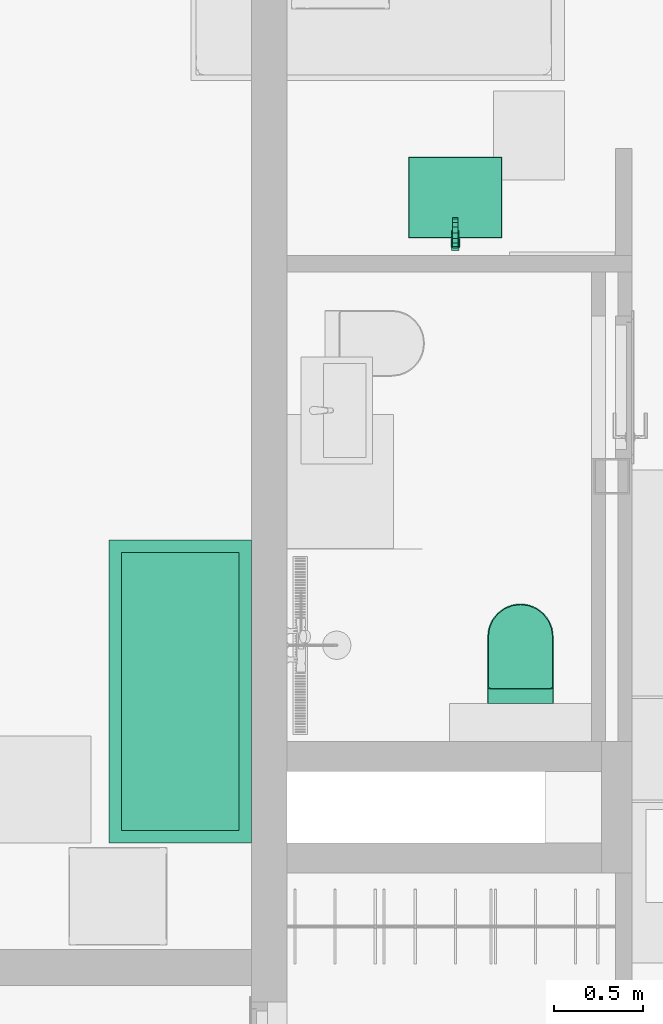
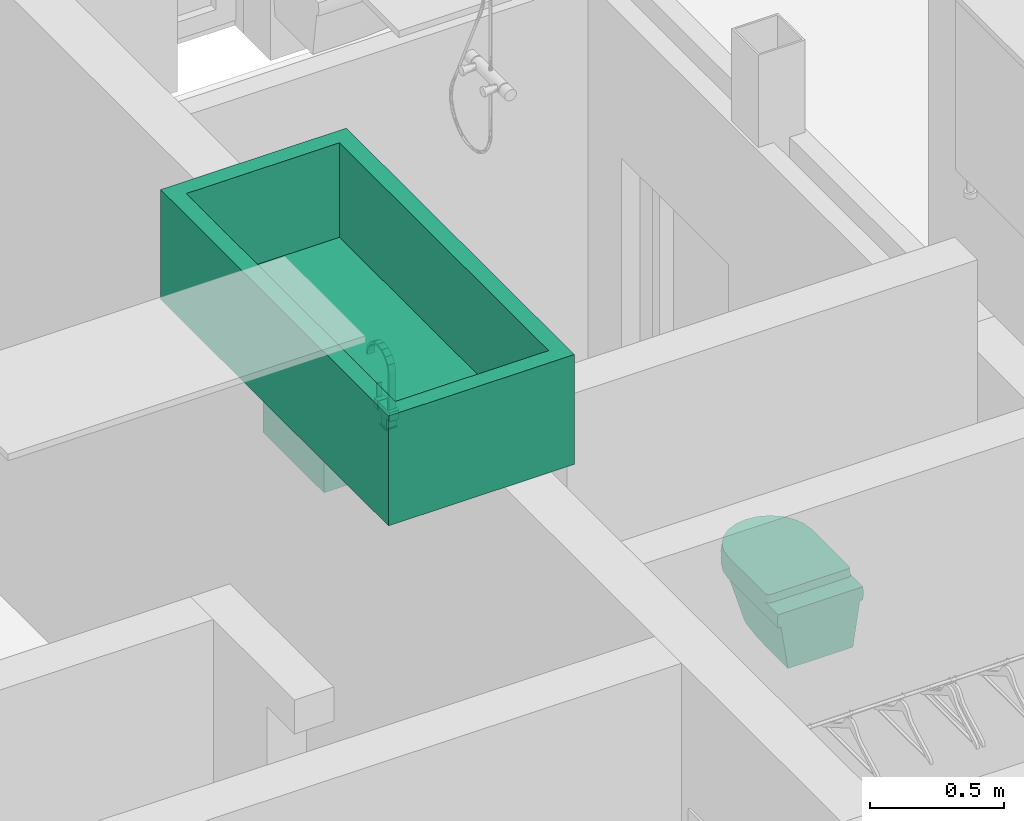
# One storey, part 21 of 68: 4 flow terminals.
"""IFC2X3 building model written with IfcOpenShell, lengths in millimetres."""

from ifc_helpers import new_model, entity, si_unit, converted_unit, direction, frame, origin, place, context, subcontext, project, spatial, faceted_brep, source, transform, mapped, material, type_object, type_shapes, element, save


model = new_model("IFC2X3")

# Units and contexts
model_context = context("Model", 3, precision=0.01, world=origin(), true_north=direction((6.123233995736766e-17, 1.0)))
plan_context = context("Plan", 3, precision=0.01, world=origin(), true_north=direction((6.123233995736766e-17, 1.0)))
body_context = subcontext(model_context, "Body", "Model", "MODEL_VIEW")
ifc_project = project(units=[si_unit("LENGTHUNIT", "METRE", prefix="MILLI"), converted_unit("PLANEANGLEUNIT", "DEGREE", entity("IfcPlaneAngleMeasure", 0.017453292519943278), si_unit("PLANEANGLEUNIT", "RADIAN"), dimensions=[0, 0, 0, 0, 0, 0, 0]), si_unit("AREAUNIT", "SQUARE_METRE")], contexts=[model_context, plan_context])

# Site, building, storey, space
site_placement = place(None, origin())
site = spatial("IfcSite", under=ifc_project, at=site_placement, Name="Default", CompositionType="ELEMENT")
building_placement = place(site_placement, origin())
building = spatial("IfcBuilding", under=site, at=building_placement, CompositionType="ELEMENT")
storey_placement = place(building_placement, frame((0.0, 0.0, 6295.0)))
storey = spatial("IfcBuildingStorey", under=building, at=storey_placement, Name="3K", CompositionType="ELEMENT", Elevation=6294.999999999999)
space_1_placement = place(storey_placement, origin())
space_1 = spatial("IfcSpace", under=storey, at=space_1_placement, Name="3-7.4", CompositionType="ELEMENT", InteriorOrExteriorSpace="INTERNAL")

# Flow terminal
ifc_material = material(Name="<Unnamed>")
distribution_element_type_1 = type_object("IfcDistributionElementType", Name="HR_Plumbing-fixtures_Toilet_Generic_v3:Default", material=ifc_material)
shared_shape_1 = source(origin(), body_context, "Body", "Brep", [
    faceted_brep([(185.0, 375.0, -3940.0), (185.0, 100.0, -3940.0), (184.31851652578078, 94.82361909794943, -3940.0), (182.32050807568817, 90.0, -3940.0), (179.14213562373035, 85.85786437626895, -3940.0), (175.0, 82.67949192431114, -3940.0), (170.17638090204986, 80.68148347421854, -3940.0), (165.0, 80.0, -3940.0), (-165.0, 80.0, -3940.0), (-170.17638090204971, 80.68148347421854, -3940.0), (-175.0, 82.67949192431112, -3940.0), (-179.14213562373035, 85.85786437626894, -3940.0), (-182.32050807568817, 90.0, -3940.0), (-184.31851652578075, 94.82361909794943, -3940.0), (-185.0, 100.0, -3940.0), (-185.0, 375.0, -3940.0), (-178.6962778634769, 422.8815233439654, -3940.0), (-160.21469970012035, 467.49999999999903, -3940.0), (-130.81475451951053, 505.81475451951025, -3940.0), (-92.4999999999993, 535.21469970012, -3940.0), (-47.8815233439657, 553.6962778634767, -3940.0), (0.0, 560.0, -3940.0), (47.88152334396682, 553.6962778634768, -3940.0), (92.50000000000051, 535.2146997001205, -3940.0), (130.81475451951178, 505.8147545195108, -3940.0), (160.2146997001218, 467.4999999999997, -3940.0), (178.69627786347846, 422.8815233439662, -3940.0), (165.0, 85.0, -3905.0), (168.88228567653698, 85.51111260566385, -3905.0), (172.4999999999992, 87.00961894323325, -3905.0), (175.60660171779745, 89.39339828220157, -3905.0), (177.99038105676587, 92.49999999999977, -3905.0), (179.48888739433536, 96.11771432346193, -3905.0), (180.0, 100.0, -3905.0), (180.0, 375.0, -3905.0), (173.86664873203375, 421.5874281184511, -3905.0), (155.88457268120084, 465.0, -3905.0), (127.27922061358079, 502.27922061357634, -3905.0), (90.0, 530.884572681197, -3905.0), (46.58742811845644, 548.8666487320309, -3905.0), (0.0, 555.0, -3905.0), (-46.58742811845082, 548.8666487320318, -3905.0), (-90.0, 530.8845726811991, -3905.0), (-127.27922061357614, 502.2792206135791, -3905.0), (-155.88457268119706, 465.0, -3905.0), (-173.8666487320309, 421.58742811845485, -3905.0), (-180.0, 375.0, -3905.0), (-180.0, 100.0, -3905.0), (-179.4888873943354, 96.11771432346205, -3905.0), (-177.99038105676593, 92.49999999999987, -3905.0), (-175.6066017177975, 89.39339828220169, -3905.0), (-172.49999999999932, 87.00961894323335, -3905.0), (-168.88228567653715, 85.51111260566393, -3905.0), (-165.0, 85.0, -3905.0)], [[[0, 1, 2, 3, 4, 5, 6, 7, 8, 9, 10, 11, 12, 13, 14, 15, 16, 17, 18, 19, 20, 21, 22, 23, 24, 25, 26]], [[27, 28, 29, 30, 31, 32, 33, 34, 35, 36, 37, 38, 39, 40, 41, 42, 43, 44, 45, 46, 47, 48, 49, 50, 51, 52, 53]], [[13, 48, 47, 14]], [[49, 12, 11, 50]], [[48, 13, 12, 49]], [[52, 51, 10, 9]], [[53, 52, 9, 8]], [[10, 51, 50, 11]], [[7, 27, 53, 8]], [[6, 28, 27, 7]], [[29, 5, 4, 30]], [[28, 6, 5, 29]], [[32, 31, 3, 2]], [[33, 32, 2, 1]], [[3, 31, 30, 4]], [[0, 34, 33, 1]], [[34, 0, 26, 35]], [[35, 26, 25, 36]], [[38, 37, 24, 23]], [[24, 37, 36, 25]], [[39, 38, 23, 22]], [[39, 22, 21, 40]], [[20, 41, 40, 21]], [[45, 44, 17, 16]], [[43, 18, 17, 44]], [[45, 16, 15, 46]], [[19, 42, 41, 20]], [[19, 18, 43, 42]], [[47, 46, 15, 14]]]),
    faceted_brep([(158.04963619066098, 466.24999999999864, -4000.0), (176.28146329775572, 422.2344757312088, -4000.0), (182.5000000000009, 375.0, -4000.0), (182.5000000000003, 0.0, -4000.0), (-182.49999999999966, 0.0, -4000.0), (-182.49999999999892, 375.0, -4000.0), (-176.2814632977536, 422.23447573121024, -4000.0), (-158.04963619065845, 466.25, -4000.0), (-129.04698756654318, 504.0469875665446, -4000.0), (-91.2499999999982, 533.0496361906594, -4000.0), (-47.23447573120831, 551.281463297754, -4000.0), (0.0, 557.4999999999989, -4000.0), (47.23447573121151, 551.2814632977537, -4000.0), (91.25000000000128, 533.0496361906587, -4000.0), (129.04698756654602, 504.0469875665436, -4000.0), (-176.28146329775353, 422.23447573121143, -3940.0), (-182.49999999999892, 375.0, -3940.0), (-182.49999999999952, 0.0, -3940.0), (182.50000000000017, 0.0, -3940.0), (182.50000000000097, 375.0, -3940.0), (176.2814632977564, 422.23447573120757, -3940.0), (158.04963619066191, 466.24999999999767, -3940.0), (129.04698756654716, 504.04698756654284, -3940.0), (91.25000000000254, 533.0496361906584, -3940.0), (47.23447573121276, 551.2814632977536, -3940.0), (0.0, 557.4999999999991, -3940.0), (-47.23447573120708, 551.2814632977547, -3940.0), (-91.24999999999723, 533.0496361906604, -3940.0), (-129.04698756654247, 504.0469875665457, -3940.0), (-158.0496361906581, 466.25000000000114, -3940.0), (184.3739186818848, 0.0, -3985.051993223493), (185.0, 0.0, -3970.0), (184.37391868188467, 0.0, -3954.9480067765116), (-184.37391868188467, 0.0, -3954.9480067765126), (-185.0, 0.0, -3970.0), (-184.37391868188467, 0.0, -3985.051993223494), (185.0, 375.0, -3970.0), (184.37391868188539, 375.0, -3954.9480067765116), (184.37391868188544, 375.0, -3985.051993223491), (179.22193525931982, 420.2391964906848, -3962.467496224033), (146.12425609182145, 487.1250848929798, -3987.162723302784), (112.36452390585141, 521.4362980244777, -3982.347722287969), (-24.092382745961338, 557.9998161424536, -3957.652277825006), (-70.79643453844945, 545.9177137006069, -3969.999999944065), (165.88140661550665, 456.6493815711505, -3963.605381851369), (170.61476036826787, 445.67094705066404, -3980.89777177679), (146.7703673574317, 487.6208651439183, -3969.999999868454), (112.4934291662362, 521.6042920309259, -3961.29138681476), (70.79643457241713, 545.9177136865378, -3969.9999999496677), (-170.6147602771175, 445.67094700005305, -3980.8977734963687), (-146.12425609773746, 487.12508488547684, -3987.1627233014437), (70.4847752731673, 545.1653000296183, -3987.16272333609), (24.092382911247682, 557.9998161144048, -3982.3477222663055), (-146.77036734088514, 487.62086516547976, -3969.999999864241), (-165.88140640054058, 456.6493822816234, -3963.605385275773), (24.120021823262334, 558.2097557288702, -3961.2913867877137), (-24.120022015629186, 558.20975569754, -3978.7086133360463), (180.8695297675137, 411.23491834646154, -3983.9362692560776), (-112.36452329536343, 521.4362985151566, -3957.652277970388), (-112.4934298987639, 521.6042914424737, -3978.708613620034), (-70.48477528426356, 545.1653000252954, -3987.1627233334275), (-184.3739188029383, 375.0, -3954.948008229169), (-179.2219343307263, 420.239200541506, -3962.4674984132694), (-185.0, 375.0, -3970.0000029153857), (-184.3739185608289, 375.0, -3985.0519946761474), (-181.40133300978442, 410.0856400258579, -3979.2616608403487)], [[[0, 1, 2, 3, 4, 5, 6, 7, 8, 9, 10, 11, 12, 13, 14]], [[15, 16, 17, 18, 19, 20, 21, 22, 23, 24, 25, 26, 27, 28, 29]], [[4, 3, 30, 31, 32, 18, 17, 33, 34, 35]], [[32, 31, 36, 37]], [[32, 37, 19, 18]], [[30, 3, 2, 38]], [[30, 38, 36, 31]], [[37, 39, 20]], [[40, 14, 41]], [[20, 19, 37]], [[26, 42, 43]], [[44, 45, 46]], [[47, 41, 48]], [[48, 24, 23]], [[7, 49, 50]], [[47, 22, 46]], [[51, 12, 52]], [[21, 46, 22]], [[53, 49, 54]], [[55, 52, 56]], [[48, 52, 55]], [[36, 57, 39]], [[28, 58, 53]], [[11, 10, 56]], [[57, 38, 2]], [[37, 36, 39]], [[59, 58, 43]], [[7, 6, 49]], [[14, 13, 41]], [[12, 51, 13]], [[45, 57, 1]], [[14, 40, 0]], [[45, 1, 0]], [[47, 46, 41]], [[39, 57, 45]], [[24, 48, 55]], [[56, 42, 55]], [[26, 43, 27]], [[39, 45, 44]], [[58, 28, 27]], [[9, 59, 60]], [[27, 43, 58]], [[28, 53, 29]], [[61, 16, 15]], [[11, 56, 52]], [[61, 62, 63]], [[47, 48, 23]], [[41, 51, 48]], [[15, 54, 62]], [[42, 25, 55]], [[62, 61, 15]], [[64, 63, 65]], [[56, 60, 43]], [[55, 25, 24]], [[50, 53, 59]], [[60, 10, 9]], [[47, 23, 22]], [[62, 49, 65]], [[7, 50, 8]], [[49, 62, 54]], [[64, 6, 5]], [[42, 26, 25]], [[58, 59, 53]], [[49, 6, 65]], [[44, 21, 20]], [[11, 52, 12]], [[42, 56, 43]], [[46, 45, 40]], [[59, 9, 8]], [[39, 44, 20]], [[44, 46, 21]], [[54, 29, 53]], [[29, 54, 15]], [[13, 51, 41]], [[48, 51, 52]], [[0, 40, 45]], [[46, 40, 41]], [[10, 60, 56]], [[43, 60, 59]], [[8, 50, 59]], [[53, 50, 49]], [[1, 57, 2]], [[36, 38, 57]], [[62, 65, 63]], [[64, 65, 6]], [[16, 61, 33]], [[16, 33, 17]], [[33, 61, 34]], [[61, 63, 34]], [[64, 5, 4]], [[64, 35, 63]], [[35, 64, 4]], [[63, 35, 34]]]),
    faceted_brep([(85.0, 522.224318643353, -4000.0), (43.99923766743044, 539.2073904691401, -4000.0), (0.0, 545.0, -4000.0), (-43.99923766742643, 539.2073904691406, -4000.0), (-85.0, 522.2243186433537, -4000.0), (-120.20815280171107, 495.2081528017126, -4000.0), (-147.22431864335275, 460.0, -4000.0), (-164.20739046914, 418.9992376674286, -4000.0), (-170.0, 375.0, -4000.0), (-170.0, 0.0, -4000.0), (170.0, 0.0, -4000.0), (170.0, 375.0, -4000.0), (164.2073904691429, 418.99923766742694, -4000.0), (147.224318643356, 460.0, -4000.0), (120.20815280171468, 495.20815280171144, -4000.0), (140.0, 0.0, -4200.0), (-140.0, 0.0, -4200.0), (-140.0, 150.0, -4200.0), (-138.62980634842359, 195.25787346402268, -4200.0), (-137.25961308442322, 240.51573412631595, -4200.0), (-133.15405183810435, 285.6078202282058, -4200.0), (-129.04849039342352, 330.69990850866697, -4200.0), (-121.54313718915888, 361.12229181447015, -4200.0), (-106.97640292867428, 388.86507440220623, -4200.0), (-86.1945818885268, 412.3164634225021, -4200.0), (-60.40505081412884, 430.11398627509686, -4200.0), (-31.106123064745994, 441.2236471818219, -4200.0), (0.0, 445.0, -4200.0), (31.106123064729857, 441.2236471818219, -4200.0), (60.40505081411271, 430.1139862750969, -4200.0), (86.19458188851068, 412.3164634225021, -4200.0), (106.97640292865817, 388.86507440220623, -4200.0), (121.54313718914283, 361.12229181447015, -4200.0), (129.04849039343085, 330.69990850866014, -4200.0), (133.15405231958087, 285.60781494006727, -4200.0), (137.25961308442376, 240.51573412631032, -4200.0), (138.629806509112, 195.25786815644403, -4200.0), (140.0, 150.0, -4200.0), (150.60660238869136, 229.54951791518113, -4129.289317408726), (160.30330119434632, 302.2747589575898, -4064.6446587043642), (155.52145288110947, 359.3375502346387, -4070.710688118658), (143.52703751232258, 346.36235827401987, -4129.289311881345), (155.38792293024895, 359.1931016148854, -4071.362825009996), (136.07910358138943, 407.7451780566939, -4100.000018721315), (144.4628484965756, 378.65444268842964, -4105.413468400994), (88.6637225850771, 465.93257853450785, -4100.000001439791), (116.08235687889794, 439.8543237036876, -4100.000003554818), (-146.76963007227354, 381.58655237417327, -4094.5865394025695), (-136.0791098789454, 407.7451788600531, -4100.000000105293), (-143.66056550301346, 346.5068047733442, -4128.637184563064), (-156.76351819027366, 360.6811785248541, -4064.644658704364), (55.573859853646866, 484.30716171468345, -4100.000000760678), (18.928354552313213, 493.79904274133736, -4099.999999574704), (-55.573860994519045, 484.3071615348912, -4100.00000022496), (-18.928355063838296, 493.79904230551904, -4100.000000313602), (-143.52703638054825, 346.36235704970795, -4129.289317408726), (-88.66372427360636, 465.9325779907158, -4100.000000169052), (-116.08235986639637, 439.8543221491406, -4100.000000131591), (-159.3933967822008, 295.45047586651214, -4070.7106881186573), (-150.6066032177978, 229.54952413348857, -4129.2893118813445)], [[[0, 1, 2, 3, 4, 5, 6, 7, 8, 9, 10, 11, 12, 13, 14]], [[15, 16, 17, 18, 19, 20, 21, 22, 23, 24, 25, 26, 27, 28, 29, 30, 31, 32, 33, 34, 35, 36, 37]], [[10, 15, 37, 38, 39, 11]], [[36, 35, 39, 38, 37]], [[39, 40, 11]], [[35, 40, 39]], [[34, 33, 41, 42, 40, 35]], [[13, 12, 43]], [[32, 44, 33]], [[32, 31, 43]], [[44, 12, 42]], [[45, 30, 29]], [[45, 46, 30]], [[22, 47, 48]], [[30, 46, 31]], [[47, 49, 50, 8]], [[28, 51, 29]], [[46, 43, 31]], [[43, 44, 32]], [[12, 11, 40, 42]], [[51, 45, 29]], [[14, 45, 0]], [[13, 43, 46]], [[28, 27, 52]], [[14, 46, 45]], [[45, 51, 0]], [[0, 51, 1]], [[1, 51, 52]], [[52, 51, 28]], [[52, 2, 1]], [[13, 46, 14]], [[53, 26, 25]], [[2, 54, 3]], [[22, 21, 55, 49]], [[24, 56, 25]], [[48, 23, 22]], [[5, 57, 6]], [[48, 57, 23]], [[24, 23, 57]], [[47, 7, 48]], [[8, 7, 47]], [[26, 54, 27]], [[3, 54, 53]], [[56, 53, 25]], [[2, 52, 54]], [[57, 56, 24]], [[4, 53, 56]], [[22, 49, 47]], [[5, 56, 57]], [[57, 48, 6]], [[4, 56, 5]], [[53, 54, 26]], [[3, 53, 4]], [[6, 48, 7]], [[12, 44, 43]], [[44, 42, 41, 33]], [[54, 52, 27]], [[20, 19, 50, 49, 55, 21]], [[50, 58, 8]], [[19, 58, 50]], [[18, 17, 59, 58, 19]], [[9, 8, 58, 59, 17, 16]], [[9, 16, 15, 10]]]),
])
type_shapes(distribution_element_type_1, [shared_shape_1])
flow_terminal_1_placement = place(space_1_placement, frame((11462.0, 9423.0, 5485.0)))
element("IfcFlowTerminal", 1, at=flow_terminal_1_placement, inside=space_1, type_object=distribution_element_type_1, material=ifc_material, Name="HR_Plumbing-fixtures_Toilet_Generic_v3:Default", ObjectType="HR_Plumbing-fixtures_Toilet_Generic_v3:Default", context=body_context, shape_type="MappedRepresentation", body=[
    mapped(shared_shape_1, transform((0.0, 0.0, 0.0), scale=1.0)),
])

# Space
space_2_placement = place(storey_placement, origin())
space_2 = spatial("IfcSpace", under=storey, at=space_2_placement, Name="3-6.2", CompositionType="ELEMENT", InteriorOrExteriorSpace="INTERNAL")

# Flow terminal
distribution_element_type_2 = type_object("IfcDistributionElementType", Name="HR_Plumbing-fixtures_Bath_Generic_v1:Default", material=ifc_material)
shared_shape_2 = source(origin(), body_context, "Body", "Brep", [
    faceted_brep([(1700.0, 800.0, 500.0), (0.0, 800.0, 500.0), (0.0, 0.0, 500.0), (1700.0, 0.0, 500.0), (70.0, 730.0, 500.0), (1630.0, 730.0, 500.0), (1630.0, 70.0, 500.0), (70.0, 70.0, 500.0), (1700.0, 800.0, 0.0), (1700.0, 0.0, 0.0), (0.0, 0.0, 0.0), (0.0, 800.0, 0.0), (1630.0, 730.0, 70.0), (70.0, 730.0, 70.0), (70.0, 70.0, 70.0), (1630.0, 70.0, 70.0)], [[[0, 1, 2, 3], [4, 5, 6, 7]], [[8, 9, 10, 11]], [[1, 0, 8, 11]], [[2, 1, 11, 10]], [[3, 2, 10, 9]], [[0, 3, 9, 8]], [[12, 13, 14, 15]], [[13, 12, 5, 4]], [[14, 13, 4, 7]], [[15, 14, 7, 6]], [[12, 15, 6, 5]]]),
])
type_shapes(distribution_element_type_2, [shared_shape_2])
flow_terminal_2_placement = place(space_2_placement, frame((9950.0, 8640.0, 3170.000076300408), z_axis=(0.0, 0.0, 1.0), x_axis=(0.0, 1.0, 0.0)))
element("IfcFlowTerminal", 2, at=flow_terminal_2_placement, inside=space_2, type_object=distribution_element_type_2, material=ifc_material, Name="HR_Plumbing-fixtures_Bath_Generic_v1:Default", ObjectType="HR_Plumbing-fixtures_Bath_Generic_v1:Default", context=body_context, shape_type="MappedRepresentation", body=[
    mapped(shared_shape_2, transform((0.0, 0.0, 0.0), scale=1.0)),
])

# Space
space_3_placement = place(storey_placement, origin())
space_3 = spatial("IfcSpace", under=storey, at=space_3_placement, Name="3-7.2", CompositionType="ELEMENT", InteriorOrExteriorSpace="INTERNAL")

# Flow terminals
distribution_element_type_3 = type_object("IfcDistributionElementType", Name="HR_Plumbing-fixtures_Sink_Generic_Kitchen_v1:Default", material=ifc_material)
shared_shape_3 = source(origin(), body_context, "Body", "Brep", [
    faceted_brep([(260.0, -50.0, -3825.0), (260.0, -500.0, -3825.0), (-260.0, -500.0, -3825.0), (-260.0, -50.0, -3825.0), (262.0, -48.0, -3825.0), (-262.0, -48.0, -3825.0), (-262.0, -502.0, -3825.0), (262.0, -502.0, -3825.0), (262.0, -48.0, -4025.0), (262.0, -502.0, -4025.0), (-262.0, -502.0, -4025.0), (-262.0, -48.0, -4025.0), (260.0, -50.0, -4023.0), (260.0, -500.0, -4023.0), (-260.0, -500.0, -4023.0), (-260.0, -50.0, -4023.0)], [[[0, 1, 2, 3], [4, 5, 6, 7]], [[8, 9, 10, 11]], [[1, 0, 12, 13]], [[2, 1, 13, 14]], [[3, 2, 14, 15]], [[0, 3, 15, 12]], [[5, 4, 8, 11]], [[6, 5, 11, 10]], [[7, 6, 10, 9]], [[4, 7, 9, 8]], [[13, 12, 15, 14]]], outer=[[False, True], [True], [True], [True], [True], [True], [True], [True], [True], [True], [True]]),
])
type_shapes(distribution_element_type_3, [shared_shape_3])
flow_terminal_3_placement = place(space_3_placement, frame((11096.0, 12540.0, 4695.0)))
element("IfcFlowTerminal", 3, at=flow_terminal_3_placement, inside=space_3, type_object=distribution_element_type_3, material=ifc_material, Name="HR_Plumbing-fixtures_Sink_Generic_Kitchen_v1:Default", ObjectType="HR_Plumbing-fixtures_Sink_Generic_Kitchen_v1:Default", context=body_context, shape_type="MappedRepresentation", body=[
    mapped(shared_shape_3, transform((0.0, 0.0, 0.0), scale=1.0)),
])
distribution_element_type_4 = type_object("IfcDistributionElementType", Name="HR_Plumbing-fixtures_Faucet_Generic_v1:Default", material=ifc_material)
shared_shape_4 = source(origin(), body_context, "Body", "Brep", [
    faceted_brep([(-21.0, 45.0, 93.0), (21.0, 45.0, 93.0), (21.0, 71.0, 93.0), (11.500000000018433, 71.0, 93.0), (11.50000000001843, 68.0, 93.0), (-11.49999999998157, 68.0, 93.0), (-11.499999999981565, 71.0, 93.0), (-21.0, 71.0, 93.0), (-21.0, 45.0, 52.0), (-21.0, 71.0, 52.0), (-11.499999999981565, 71.0, 52.0), (-11.49999999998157, 68.0, 52.0), (11.50000000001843, 68.0, 52.0), (11.500000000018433, 71.0, 52.0), (21.0, 71.0, 52.0), (21.0, 45.0, 52.0), (-11.499999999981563, 74.0, 155.0), (-11.499999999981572, 68.0, 155.0), (11.500000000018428, 68.0, 155.0), (11.500000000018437, 74.0, 155.0), (-11.499999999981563, 74.0, 47.0), (11.500000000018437, 74.0, 47.0), (11.500000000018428, 68.0, 47.0), (-11.499999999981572, 68.0, 47.0)], [[[0, 1, 2, 3, 4, 5, 6, 7]], [[8, 9, 10, 11, 12, 13, 14, 15]], [[1, 0, 8, 15]], [[2, 1, 15, 14]], [[2, 14, 13, 3]], [[0, 7, 9, 8]], [[16, 17, 18, 19]], [[20, 21, 22, 23]], [[17, 16, 20, 23, 11, 10, 6, 5]], [[18, 17, 5, 4]], [[19, 18, 4, 3, 13, 12, 22, 21]], [[16, 19, 21, 20]], [[23, 22, 12, 11]], [[9, 7, 6, 10]]]),
    faceted_brep([(15.0, -28.2999999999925, 93.0), (-15.0, -28.299999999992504, 93.0), (-15.0, -18.299999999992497, 93.0), (15.0, -18.299999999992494, 93.0), (15.0, -28.299999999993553, 262.91444034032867), (-15.0, -28.29999999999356, 262.9144403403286), (-15.0, -18.29999999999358, 262.49427421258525), (15.0, -18.299999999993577, 262.49427421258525), (15.0, -24.100059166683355, 278.21407775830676), (15.0, -19.900118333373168, 293.51371517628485), (-15.0, -19.900118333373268, 293.5137151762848), (-15.0, -24.100059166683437, 278.2140777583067), (-15.0, -0.9291565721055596, 318.9494428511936), (-15.0, -10.414637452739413, 306.2315790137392), (15.0, -10.414637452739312, 306.23157901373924), (15.0, -0.9291565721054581, 318.9494428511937), (15.0, 142.33160759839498, 262.51576689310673), (-15.0, 142.33160759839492, 262.51576689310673), (-15.0, 138.20320612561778, 277.83486312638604), (-15.0, 134.07480465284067, 293.15395935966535), (15.0, 134.07480465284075, 293.15395935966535), (15.0, 138.20320612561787, 277.83486312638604), (-15.0, 26.005040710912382, 335.7250992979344), (-15.0, 12.537942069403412, 327.337271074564), (15.0, 12.537942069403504, 327.337271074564), (15.0, 26.005040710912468, 335.7250992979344), (-15.0, 57.19996222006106, 341.5346177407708), (-15.0, 41.60250146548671, 338.6298585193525), (15.0, 41.60250146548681, 338.62985851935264), (15.0, 57.19996222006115, 341.5346177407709), (-15.0, 88.36739590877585, 335.5793923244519), (-15.0, 72.78367906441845, 338.55700503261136), (15.0, 72.78367906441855, 338.55700503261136), (15.0, 88.36739590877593, 335.5793923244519), (-15.0, 124.64885649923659, 305.9160089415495), (-15.0, 115.22290834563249, 318.67805852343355), (15.0, 115.22290834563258, 318.67805852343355), (15.0, 124.64885649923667, 305.9160089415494), (-15.0, 101.79515212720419, 327.1287254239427), (15.0, 101.79515212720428, 327.1287254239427), (-15.0, 142.3316075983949, 249.0), (-15.0, 132.33160759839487, 249.0), (-15.0, 132.3316075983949, 262.11973222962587), (-15.0, 128.64003790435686, 275.58767371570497), (-15.0, 124.94846821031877, 289.05561520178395), (-15.0, 116.61798076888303, 300.2634746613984), (-15.0, 108.28749332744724, 311.4713341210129), (-15.0, 96.45555148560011, 318.88876541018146), (-15.0, 84.623609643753, 326.30619669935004), (-15.0, 70.90577314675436, 328.9204071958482), (-15.0, 57.187936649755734, 331.53461769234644), (-15.0, 43.457269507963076, 328.98865726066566), (-15.0, 29.726602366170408, 326.4426968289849), (-15.0, 17.85792051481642, 319.08419658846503), (-15.0, 5.989238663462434, 311.72569634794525), (-15.0, -2.3968815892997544, 300.55940234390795), (-15.0, -10.783001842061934, 289.3931083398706), (-15.0, -14.541500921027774, 275.9436912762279), (15.0, -10.783001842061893, 289.3931083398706), (15.0, -14.541500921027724, 275.9436912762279), (15.0, 5.989238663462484, 311.7256963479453), (15.0, -2.396881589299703, 300.55940234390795), (15.0, 116.61798076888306, 300.2634746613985), (15.0, 108.28749332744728, 311.47133412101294), (15.0, 124.94846821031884, 289.05561520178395), (15.0, 29.726602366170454, 326.4426968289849), (15.0, 17.857920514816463, 319.08419658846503), (15.0, 57.187936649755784, 331.53461769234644), (15.0, 43.45726950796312, 328.98865726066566), (15.0, 84.62360964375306, 326.30619669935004), (15.0, 70.90577314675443, 328.9204071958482), (15.0, 127.94606568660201, 278.11949025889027), (15.0, 132.33160759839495, 262.11973222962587), (15.0, 96.45555148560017, 318.88876541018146), (15.0, 132.33160759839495, 249.0), (15.0, 142.33160759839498, 249.0)], [[[0, 1, 2, 3]], [[1, 0, 4, 5]], [[3, 2, 6, 7]], [[4, 8, 9, 10, 11, 5]], [[12, 13, 10, 9, 14, 15]], [[16, 17, 18, 19, 20, 21]], [[22, 23, 12, 15, 24, 25]], [[26, 27, 22, 25, 28, 29]], [[30, 31, 26, 29, 32, 33]], [[34, 35, 36, 37, 20, 19]], [[35, 38, 30, 33, 39, 36]], [[17, 40, 41, 42, 43, 44, 45, 46, 47, 48, 49, 50, 51, 52, 53, 54, 55, 56, 57, 6, 2, 1, 5, 11, 10, 13, 12, 23, 22, 27, 26, 31, 30, 38, 35, 34, 19, 18]], [[6, 57, 56, 58, 59, 7]], [[60, 61, 58, 56, 55, 54]], [[62, 63, 46, 45, 44, 64]], [[65, 66, 60, 54, 53, 52]], [[65, 52, 51, 50, 67, 68]], [[69, 70, 67, 50, 49, 48]], [[71, 64, 44, 43, 42, 72]], [[47, 46, 63, 73, 69, 48]], [[72, 74, 75, 16, 21, 20, 37, 36, 39, 33, 32, 29, 28, 25, 24, 15, 14, 9, 8, 4, 0, 3, 7, 59, 58, 61, 60, 66, 65, 68, 67, 70, 69, 73, 63, 62, 64, 71]], [[41, 40, 75, 74]], [[17, 16, 75, 40]], [[72, 42, 41, 74]]]),
    faceted_brep([(-21.0, -43.0, 93.0), (21.0, -43.0, 93.0), (21.0, 43.0, 93.0), (-21.0, 43.0, 93.0), (-21.0, -43.0, 52.0), (-21.0, 43.0, 52.0), (21.0, 43.0, 52.0), (21.0, -43.0, 52.0)], [[[0, 1, 2, 3]], [[4, 5, 6, 7]], [[1, 0, 4, 7]], [[2, 1, 7, 6]], [[3, 2, 6, 5]], [[0, 3, 5, 4]]]),
    faceted_brep([(21.0, -21.0, 52.0), (21.0, 21.0, 52.0), (-21.0, 21.0, 52.0), (-21.0, -21.0, 52.0), (21.0, -21.0, 7.0), (-21.0, -21.0, 7.0), (-21.0, 21.0, 7.0), (21.0, 21.0, 7.0)], [[[0, 1, 2, 3]], [[4, 5, 6, 7]], [[1, 0, 4, 7]], [[2, 1, 7, 6]], [[3, 2, 6, 5]], [[0, 3, 5, 4]]]),
    faceted_brep([(-25.0, 25.0, 7.0), (-25.0, -25.0, 7.0), (25.0, -25.0, 7.0), (25.0, 25.0, 7.0), (-25.0, 25.0, 0.0), (25.0, 25.0, 0.0), (25.0, -25.0, 0.0), (-25.0, -25.0, 0.0)], [[[0, 1, 2, 3]], [[4, 5, 6, 7]], [[1, 0, 4, 7]], [[2, 1, 7, 6]], [[3, 2, 6, 5]], [[0, 3, 5, 4]]]),
])
type_shapes(distribution_element_type_4, [shared_shape_4])
flow_terminal_4_placement = place(space_3_placement, frame((11096.0, 12010.0, 900.0)))
element("IfcFlowTerminal", 4, at=flow_terminal_4_placement, inside=space_3, type_object=distribution_element_type_4, material=ifc_material, Name="HR_Plumbing-fixtures_Faucet_Generic_v1:Default", ObjectType="HR_Plumbing-fixtures_Faucet_Generic_v1:Default", context=body_context, shape_type="MappedRepresentation", body=[
    mapped(shared_shape_4, transform((0.0, 0.0, 0.0), scale=1.0)),
])

save(model, "model.ifc")
